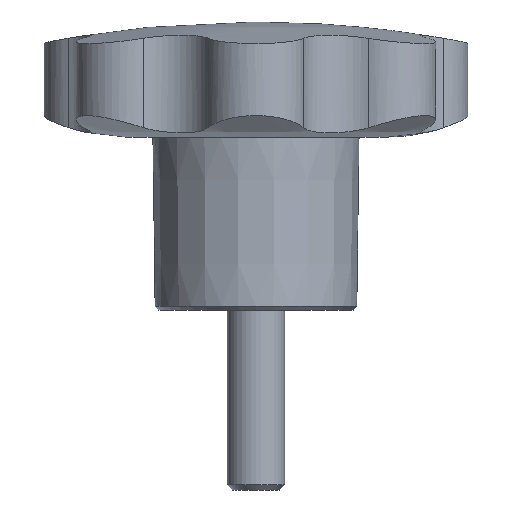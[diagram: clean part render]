
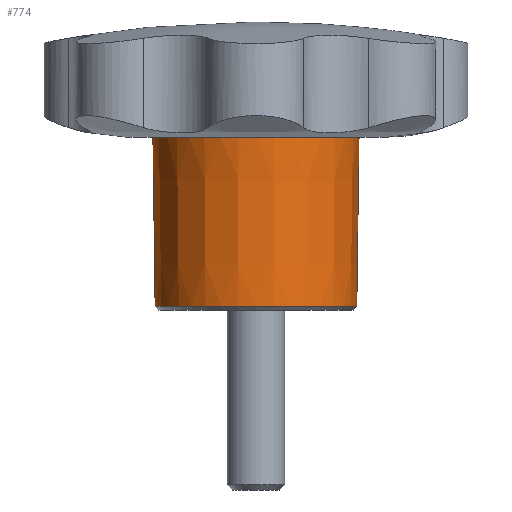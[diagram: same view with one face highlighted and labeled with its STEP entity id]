
A CAD part, front view. The second image highlights one B-rep face of the part: STEP entity #774.
In plain terms, the highlighted conical face has half-angle 0.75 degrees and reference radius 14.007 mm.
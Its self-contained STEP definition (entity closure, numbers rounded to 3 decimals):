
#738=CARTESIAN_POINT('',(14.314,0.,24.));
#739=VERTEX_POINT('',#738);
#740=CARTESIAN_POINT('',(0.,0.,24.));
#741=DIRECTION('',(1.,0.,0.));
#742=DIRECTION('',(0.,0.,1.));
#743=AXIS2_PLACEMENT_3D('',#740,#742,#741);
#744=CIRCLE('',#743,14.314);
#745=EDGE_CURVE('',#739,#739,#744,.T.);
#750=CARTESIAN_POINT('',(0.,0.,0.5));
#751=DIRECTION('',(1.,0.,0.));
#752=DIRECTION('',(0.,0.,1.));
#753=AXIS2_PLACEMENT_3D('',#750,#752,#751);
#754=CONICAL_SURFACE('',#753,14.007,0.013);
#755=CARTESIAN_POINT('',(14.007,0.,0.5));
#756=VERTEX_POINT('',#755);
#757=CARTESIAN_POINT('',(14.007,0.,0.5));
#758=DIRECTION('',(0.013,0.,1.));
#759=VECTOR('',#758,23.502);
#760=LINE('',#757,#759);
#761=EDGE_CURVE('',#756,#739,#760,.T.);
#762=ORIENTED_EDGE('E2',*,*,#761,.T.);
#763=ORIENTED_EDGE('E2',*,*,#745,.T.);
#764=ORIENTED_EDGE('E2',*,*,#761,.F.);
#765=CARTESIAN_POINT('',(0.,0.,0.5));
#766=DIRECTION('',(1.,0.,-0.));
#767=DIRECTION('',(0.,-0.,1.));
#768=AXIS2_PLACEMENT_3D('',#765,#767,#766);
#769=CIRCLE('',#768,14.007);
#770=EDGE_CURVE('',#756,#756,#769,.T.);
#771=ORIENTED_EDGE('E7',*,*,#770,.F.);
#772=EDGE_LOOP('',(#762,#763,#764,#771));
#773=FACE_OUTER_BOUND('',#772,.F.);
#774=ADVANCED_FACE('F3',(#773),#754,.T.);
